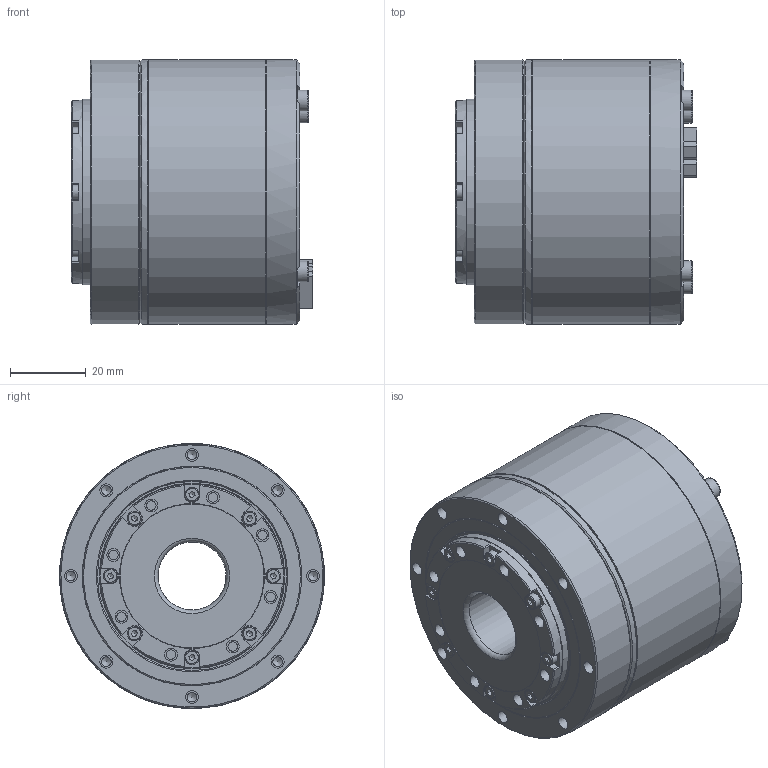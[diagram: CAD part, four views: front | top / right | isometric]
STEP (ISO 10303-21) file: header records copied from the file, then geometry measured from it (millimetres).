
FILE_DESCRIPTION (( 'STEP AP203' ), '1' );
FILE_NAME ('eRob70F｡ﾁ｡ﾁI-F-XX-18EX_V3_MC2A.BX.XX.STEP', '2025-04-02T07:12:43', ( 'Windows User' ), ( 'P R C' ), 'SwSTEP 2.0', 'SolidWorks 2021', '' );
FILE_SCHEMA (( 'CONFIG_CONTROL_DESIGN' ));
Length unit declared in the file: millimetre
Products named in the file (1): eRob70F××I-F-XX-18EX_V3_MC2A.BX.XX
Bounding box: 63.8 x 70 x 70 mm (x, y, z)
Volume: 201667.3 mm3; surface area: 31943.4 mm2
Topology: 1 solids, 1 shells, 2542 faces, 6880 edges, 4521 vertices
Faces by surface type: plane 1957, bspline 332, cylinder 158, cone 77, torus 18
Full cylindrical faces by diameter (mm): 1.2 x2, 1.5 x9, 1.55 x3, 2.1 x5, 2.45 x4, 2.5 x16, 3.4 x16, 3.8 x8, 5.5 x4, 18 x1, 48.6 x1, 49 x1, 50 x1, 58 x1, 70 x4
Entity records: 98547 total; most frequent: CARTESIAN_POINT 37461, ORIENTED_EDGE 13318, DIRECTION 10868, EDGE_CURVE 6659, LINE 5426, VECTOR 5426, VERTEX_POINT 4428, EDGE_LOOP 2929
